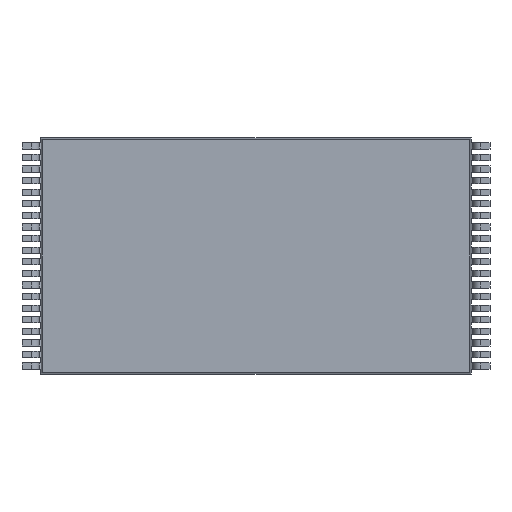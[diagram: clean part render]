
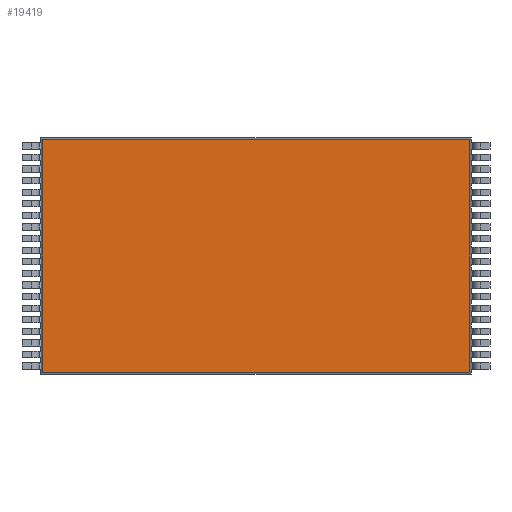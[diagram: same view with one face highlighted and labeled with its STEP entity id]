
A CAD part, front view. The second image highlights one B-rep face of the part: STEP entity #19419.
In plain terms, the highlighted planar face has unit normal (0, -1, 0).
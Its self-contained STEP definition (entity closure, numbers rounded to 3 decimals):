
#25 = EDGE_CURVE ( 'NONE', #8700, #8776, #7157, .T. ) ;
#1938 = CARTESIAN_POINT ( 'NONE',  ( 9.216, 0.1, -5.016 ) ) ;
#2043 = CARTESIAN_POINT ( 'NONE',  ( 9.216, 0.1, 5.016 ) ) ;
#3559 = EDGE_CURVE ( 'NONE', #8935, #8670, #6953, .T. ) ;
#3611 = EDGE_CURVE ( 'NONE', #8670, #8700, #6944, .T. ) ;
#3889 = EDGE_CURVE ( 'NONE', #8776, #8935, #11583, .T. ) ;
#5047 = PLANE ( 'NONE',  #21480 ) ;
#5049 = CARTESIAN_POINT ( 'NONE',  ( 0., 0.1, 0. ) ) ;
#5061 = DIRECTION ( 'NONE',  ( 0., 1., 0. ) ) ;
#5062 = DIRECTION ( 'NONE',  ( 0., 0., 1. ) ) ;
#5660 = CARTESIAN_POINT ( 'NONE',  ( 9.3, 0.1, -5.016 ) ) ;
#5665 = DIRECTION ( 'NONE',  ( 1., 0., 0. ) ) ;
#5793 = FACE_OUTER_BOUND ( 'NONE', #10191, .T. ) ;
#6875 = VECTOR ( 'NONE', #8394, 1000. ) ;
#6944 = LINE ( 'NONE', #8250, #6875 ) ;
#6949 = VECTOR ( 'NONE', #8259, 1000. ) ;
#6953 = LINE ( 'NONE', #8265, #6949 ) ;
#7153 = VECTOR ( 'NONE', #5665, 1000. ) ;
#7157 = LINE ( 'NONE', #5660, #7153 ) ;
#8250 = CARTESIAN_POINT ( 'NONE',  ( -9.216, 0.1, 5.1 ) ) ;
#8259 = DIRECTION ( 'NONE',  ( -1., 0., 0. ) ) ;
#8265 = CARTESIAN_POINT ( 'NONE',  ( 9.3, 0.1, 5.016 ) ) ;
#8394 = DIRECTION ( 'NONE',  ( 0., 0., -1. ) ) ;
#8670 = VERTEX_POINT ( 'NONE', #18012 ) ;
#8700 = VERTEX_POINT ( 'NONE', #18031 ) ;
#8776 = VERTEX_POINT ( 'NONE', #1938 ) ;
#8935 = VERTEX_POINT ( 'NONE', #2043 ) ;
#9465 = CARTESIAN_POINT ( 'NONE',  ( 9.216, 0.1, 5.1 ) ) ;
#10191 = EDGE_LOOP ( 'NONE', ( #13578, #13577, #13576, #13575 ) ) ;
#11583 = LINE ( 'NONE', #9465, #11623 ) ;
#11623 = VECTOR ( 'NONE', #17086, 1000. ) ;
#13575 = ORIENTED_EDGE ( 'NONE', *, *, #3559, .T. ) ;
#13576 = ORIENTED_EDGE ( 'NONE', *, *, #3889, .T. ) ;
#13577 = ORIENTED_EDGE ( 'NONE', *, *, #25, .T. ) ;
#13578 = ORIENTED_EDGE ( 'NONE', *, *, #3611, .T. ) ;
#17086 = DIRECTION ( 'NONE',  ( 0., 0., 1. ) ) ;
#18012 = CARTESIAN_POINT ( 'NONE',  ( -9.216, 0.1, 5.016 ) ) ;
#18031 = CARTESIAN_POINT ( 'NONE',  ( -9.216, 0.1, -5.016 ) ) ;
#19419 = ADVANCED_FACE ( 'NONE', ( #5793 ), #5047, .F. ) ;
#21480 = AXIS2_PLACEMENT_3D ( 'NONE', #5049, #5061, #5062 ) ;
